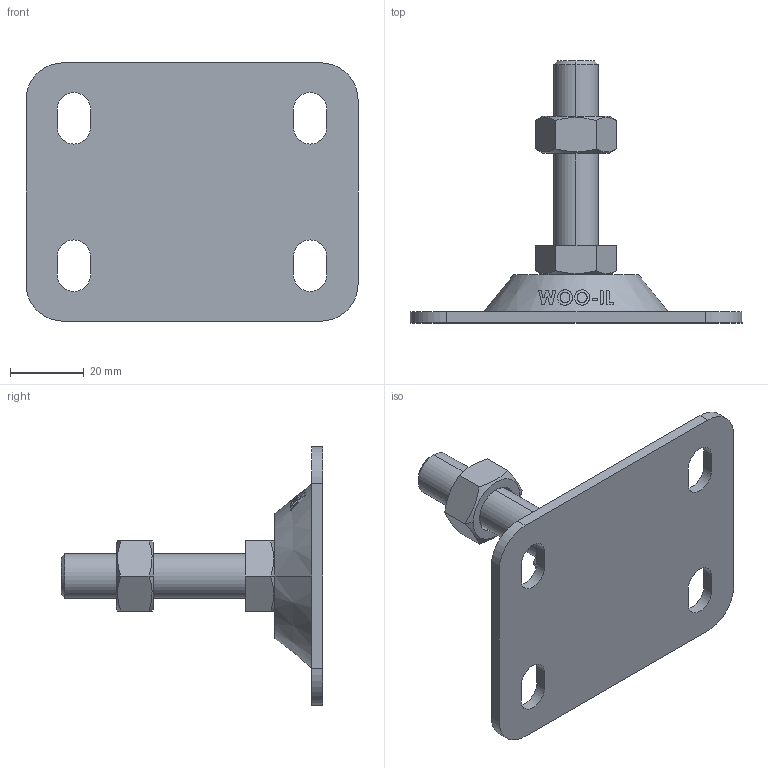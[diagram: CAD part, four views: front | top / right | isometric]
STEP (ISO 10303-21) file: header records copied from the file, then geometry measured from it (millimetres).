
FILE_DESCRIPTION (( 'STEP AP214' ), '1' );
FILE_NAME ('FABL7090-M12-50.step', '2021-03-28T23:51:17', ( '' ), ( '' ), 'SwSTEP 2.0', 'SolidWorks 2019', '' );
FILE_SCHEMA (( 'AUTOMOTIVE_DESIGN' ));
Length unit declared in the file: millimetre
Products named in the file (2): FABL7090-M12-50
Bounding box: 90 x 71 x 70 mm (x, y, z)
Volume: 41389 mm3; surface area: 17482.6 mm2
Topology: 2 solids, 2 shells, 142 faces, 369 edges, 242 vertices
Faces by surface type: plane 58, cylinder 44, cone 22, bspline 18
Entity records: 5925 total; most frequent: CARTESIAN_POINT 2627, ORIENTED_EDGE 738, DIRECTION 553, EDGE_CURVE 369, VERTEX_POINT 242, AXIS2_PLACEMENT_3D 198, EDGE_LOOP 163, VECTOR 157
